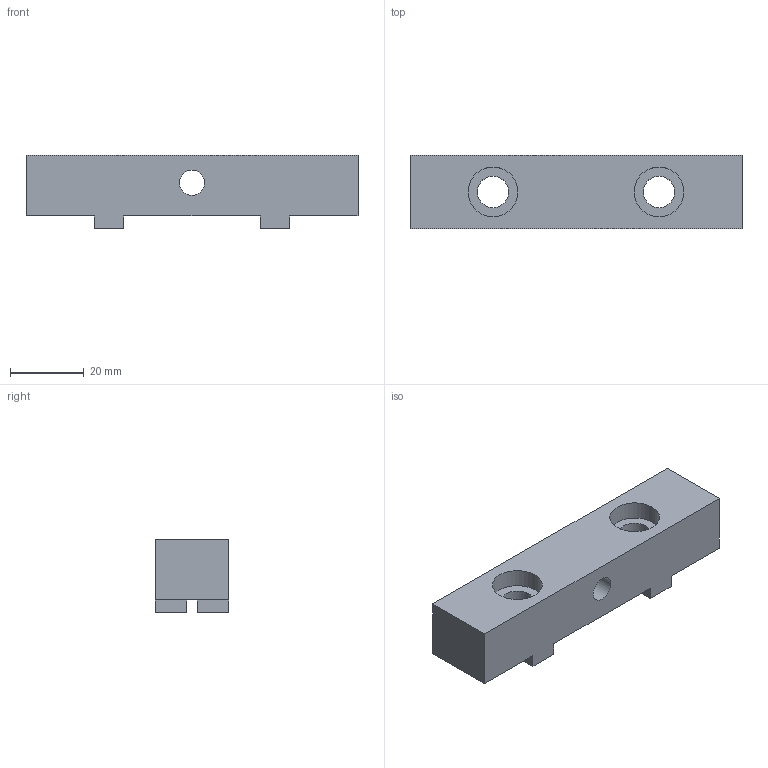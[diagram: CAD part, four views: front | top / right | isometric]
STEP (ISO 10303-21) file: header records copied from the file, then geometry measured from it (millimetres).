
FILE_DESCRIPTION (( 'STEP AP214' ), '1' );
FILE_NAME ('SN07001.step', '2024-12-03T16:31:52', ( '' ), ( '' ), 'SwSTEP 2.0', 'SolidWorks 2023', '' );
FILE_SCHEMA (( 'AUTOMOTIVE_DESIGN' ));
Length unit declared in the file: millimetre
Products named in the file (1): SN07001
Bounding box: 90 x 20 x 20 mm (x, y, z)
Volume: 26966.7 mm3; surface area: 8893.6 mm2
Topology: 1 solids, 1 shells, 27 faces, 75 edges, 50 vertices
Faces by surface type: plane 22, cylinder 5
Full cylindrical faces by diameter (mm): 6.8 x1, 8.5 x2, 13.5 x2
Entity records: 857 total; most frequent: CARTESIAN_POINT 144, DIRECTION 140, ORIENTED_EDGE 136, EDGE_CURVE 68, VECTOR 52, LINE 52, VERTEX_POINT 48, AXIS2_PLACEMENT_3D 44
